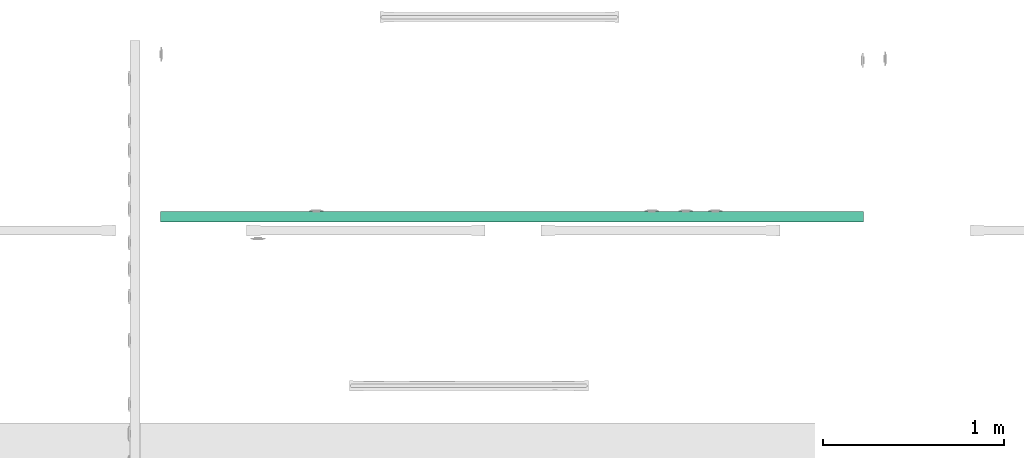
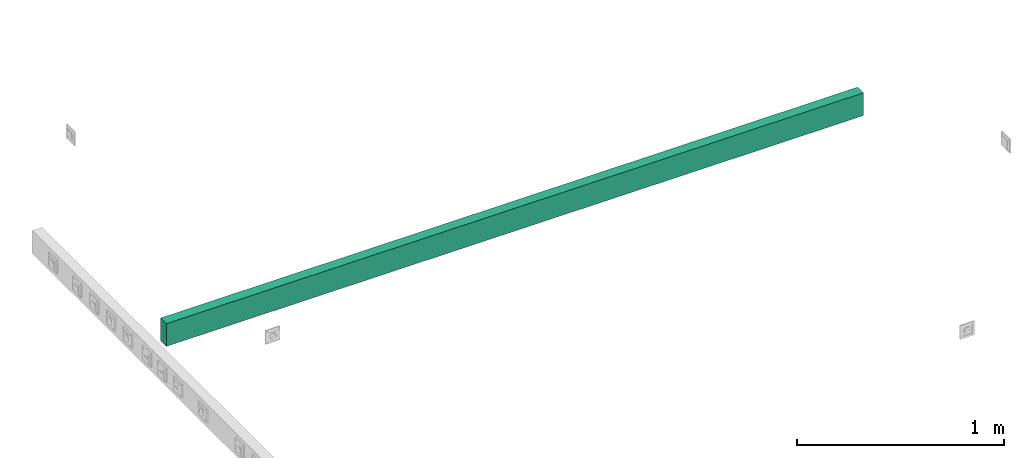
# One storey, part 12 of 166: 1 flow segment.
"""IFC2X3 building model written with IfcOpenShell, lengths in metres."""

from ifc_helpers import new_model, entity, si_unit, converted_unit, derived_unit, direction, frame, frame_2d, origin, place, context, subcontext, project, spatial, rectangle, extrude, type_object, element, save


model = new_model("IFC2X3")

# Units and contexts
model_context = context("Model", 3, precision=1e-05, world=origin(), true_north=direction((6.12303176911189e-17, 1.0)))
body_context = subcontext(model_context, "Body", "Model", "MODEL_VIEW")
ifc_project = project(units=[si_unit("LENGTHUNIT", "METRE"), si_unit("AREAUNIT", "SQUARE_METRE"), si_unit("VOLUMEUNIT", "CUBIC_METRE"), converted_unit("PLANEANGLEUNIT", "DEGREE", entity("IfcRatioMeasure", 0.0174532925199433), si_unit("PLANEANGLEUNIT", "RADIAN"), dimensions=[0, 0, 0, 0, 0, 0, 0]), si_unit("MASSUNIT", "GRAM", prefix="KILO"), derived_unit("MASSDENSITYUNIT", [(si_unit("MASSUNIT", "GRAM", prefix="KILO"), 1), (si_unit("LENGTHUNIT", "METRE"), -3)]), si_unit("TIMEUNIT", "SECOND"), si_unit("FREQUENCYUNIT", "HERTZ"), si_unit("THERMODYNAMICTEMPERATUREUNIT", "DEGREE_CELSIUS"), derived_unit("THERMALTRANSMITTANCEUNIT", [(si_unit("MASSUNIT", "GRAM", prefix="KILO"), 1), (si_unit("THERMODYNAMICTEMPERATUREUNIT", "KELVIN"), -1), (si_unit("TIMEUNIT", "SECOND"), -3)]), derived_unit("VOLUMETRICFLOWRATEUNIT", [(si_unit("LENGTHUNIT", "METRE"), 3), (si_unit("TIMEUNIT", "SECOND"), -1)]), si_unit("ELECTRICCURRENTUNIT", "AMPERE"), si_unit("ELECTRICVOLTAGEUNIT", "VOLT"), si_unit("POWERUNIT", "WATT"), si_unit("FORCEUNIT", "NEWTON"), si_unit("ILLUMINANCEUNIT", "LUX"), si_unit("LUMINOUSFLUXUNIT", "LUMEN"), si_unit("LUMINOUSINTENSITYUNIT", "CANDELA"), derived_unit("USERDEFINED", [(si_unit("MASSUNIT", "GRAM", prefix="KILO"), -1), (si_unit("LENGTHUNIT", "METRE"), -2), (si_unit("TIMEUNIT", "SECOND"), 3), (si_unit("LUMINOUSFLUXUNIT", "LUMEN"), 1)]), derived_unit("LINEARVELOCITYUNIT", [(si_unit("LENGTHUNIT", "METRE"), 1), (si_unit("TIMEUNIT", "SECOND"), -1)]), si_unit("PRESSUREUNIT", "PASCAL"), derived_unit("USERDEFINED", [(si_unit("LENGTHUNIT", "METRE"), -2), (si_unit("MASSUNIT", "GRAM", prefix="KILO"), 1), (si_unit("TIMEUNIT", "SECOND"), -2)])], contexts=[model_context])

# Site, building, storey
site_placement = place(None, origin())
site = spatial("IfcSite", under=ifc_project, at=site_placement, Name="Default", CompositionType="ELEMENT")
building_placement = place(site_placement, origin())
building = spatial("IfcBuilding", under=site, at=building_placement, CompositionType="ELEMENT")
storey_placement = place(building_placement, frame((0.0, 0.0, 4.27)))
storey = spatial("IfcBuildingStorey", under=building, at=storey_placement, Name="01", CompositionType="ELEMENT", Elevation=4.27)

# Flow segment
cable_carrier_segment_type = type_object("IfcCableCarrierSegmentType", Name="Cable Tray with Fittings:Goulottes de câbles indéfini_Goulottes de câbles", PredefinedType="NOTDEFINED")
flow_segment_placement = place(storey_placement, origin())
element("IfcFlowSegment", 1, at=flow_segment_placement, inside=storey, type_object=cable_carrier_segment_type, Name="Cable Tray with Fittings:Goulottes de câbles indéfini_Goulottes de câbles", ObjectType="Cable Tray with Fittings:Goulottes de câbles indéfini_Goulottes de câbles", context=body_context, shape_type="SweptSolid", body=[
    extrude(rectangle(XDim=3.88360089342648, YDim=0.0559999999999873, at=frame_2d((4.32986979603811e-15, 0.0), x_axis=(1.0, 0.0))), frame((55.4899432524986, -187.41206962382, 0.366)), (0.0, 0.0, 1.0), 0.134),
])

save(model, "model.ifc")
